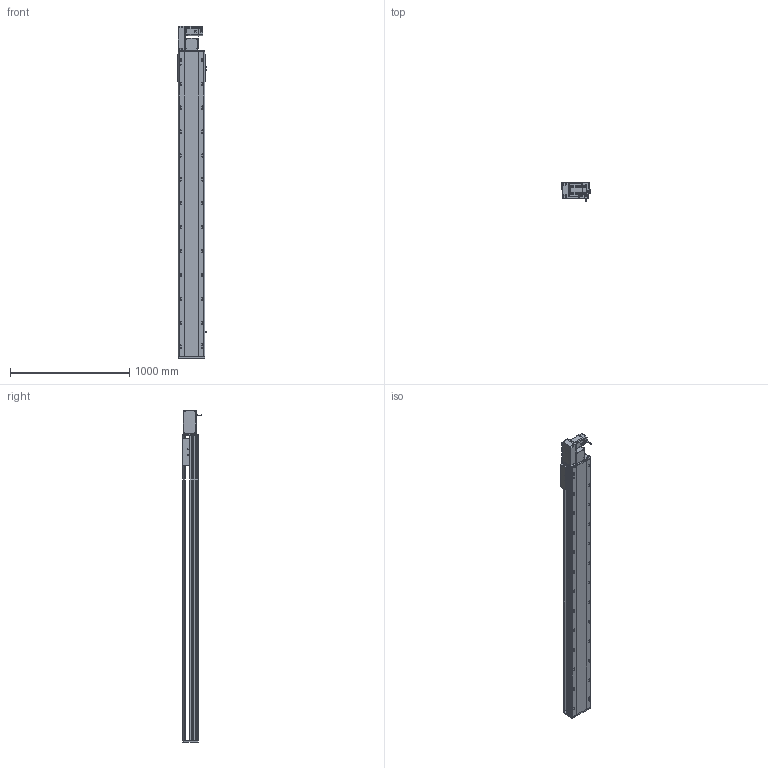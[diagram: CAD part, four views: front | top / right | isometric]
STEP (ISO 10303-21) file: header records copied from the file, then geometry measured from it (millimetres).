
FILE_DESCRIPTION (( 'STEP AP214' ), '1' );
FILE_NAME ('RTB22S-XX-2200-L-M75-C4.STEP', '2025-12-12T03:25:56', ( '' ), ( '' ), 'SwSTEP 2.0', 'SolidWorks 2018', '' );
FILE_SCHEMA (( 'AUTOMOTIVE_DESIGN' ));
Length unit declared in the file: millimetre
Products named in the file (14): RTB22S-GY-018P^RTB22S-L-々湍釱蚾饜_RTB22S-XX-XX-L-M75-C4; 750W萇儂^RTB22S-XX-XX-L-M75-C4; RTB22S-GY-001耜裔^RTB22S-XX-XX-L-M75-C4; RTB22S-L-々湍釱蚾饜^RTB22S-XX-XX-L-M75-C4; RTB22S-GY-007奻裔^RTB22S-XX-XX-L-M75-C4; RTB22S-GY-014--々湍釱^RTB22S-L-々湍釱蚾饜_RTB22S-XX-XX-L-M75-C4; RTB22S-XX-2200-L-M75-C4; RTB22S-GY-008-M75--萇儂啣^RTB22S-L-々湍釱蚾饜_RTB22S-XX-XX-L-M75-C4; OMRON EE-SX672 传感器^RTB22S-XX-XX-L-M75-C4; RTB22S-GY-005P^RTB22S-L-々湍釱蚾饜_RTB22S-XX-XX-L-M75-C4; RTB22S-L-011菁釱^RTB22S-XX-XX-L-M75-C4; RTB22S-L-004賑釱^RTB22S-XX-XX-L-M75-C4; RTH22-GY-013外置感应片^RTB22S-XX-XX-L-M75-C4; RTB22S-GY-017P^RTB22S-L-々湍釱蚾饜_RTB22S-XX-XX-L-M75-C4
Assembly tree (16 placements, depth 3):
  RTB22S-XX-2200-L-M75-C4
    RTB22S-L-011菁釱^RTB22S-XX-XX-L-M75-C4
    750W萇儂^RTB22S-XX-XX-L-M75-C4
    RTB22S-L-004賑釱^RTB22S-XX-XX-L-M75-C4
    OMRON EE-SX672 传感器^RTB22S-XX-XX-L-M75-C4  x3
    RTH22-GY-013外置感应片^RTB22S-XX-XX-L-M75-C4
    RTB22S-GY-007奻裔^RTB22S-XX-XX-L-M75-C4
    RTB22S-GY-001耜裔^RTB22S-XX-XX-L-M75-C4
    RTB22S-L-々湍釱蚾饜^RTB22S-XX-XX-L-M75-C4
      RTB22S-GY-014--々湍釱^RTB22S-L-々湍釱蚾饜_RTB22S-XX-XX-L-M75-C4
      RTB22S-GY-017P^RTB22S-L-々湍釱蚾饜_RTB22S-XX-XX-L-M75-C4  x2
      RTB22S-GY-005P^RTB22S-L-々湍釱蚾饜_RTB22S-XX-XX-L-M75-C4
      RTB22S-GY-008-M75--萇儂啣^RTB22S-L-々湍釱蚾饜_RTB22S-XX-XX-L-M75-C4
      RTB22S-GY-018P^RTB22S-L-々湍釱蚾饜_RTB22S-XX-XX-L-M75-C4
Bounding box: 238.5 x 162.7 x 2779 mm (x, y, z)
Volume: 35272898.1 mm3; surface area: 3613170.8 mm2
Topology: 15 solids, 15 shells, 2073 faces, 5636 edges, 3602 vertices
Faces by surface type: plane 925, cylinder 682, bspline 296, cone 158, sphere 8, torus 4
Entity records: 56058 total; most frequent: CARTESIAN_POINT 15912, ORIENTED_EDGE 8020, DIRECTION 7804, EDGE_CURVE 4010, AXIS2_PLACEMENT_3D 2786, VERTEX_POINT 2606, LINE 2232, VECTOR 2232
